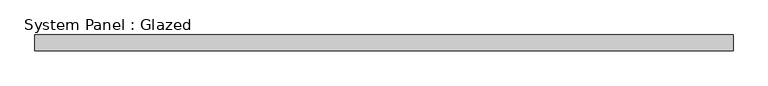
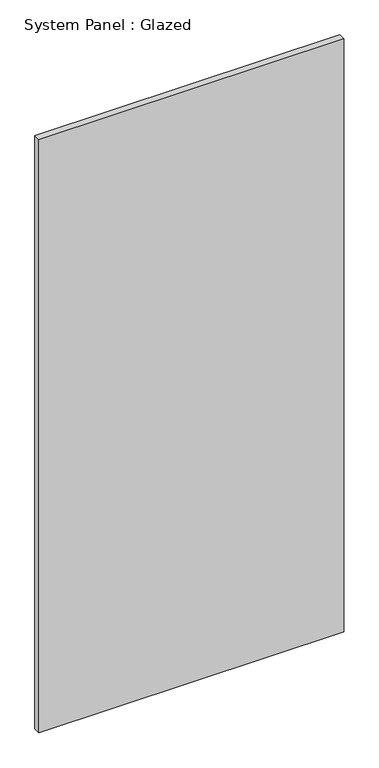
"""IFC4 building model written with IfcOpenShell, lengths in millimetres: plate geometry, System Panel : Glazed."""

import ifcopenshell
import ifcopenshell.guid

model = None  # the IFC model being written
_history = None  # IfcOwnerHistory: only IFC2X3 demands one
_inside = {}  # id of a spatial element -> (the spatial element, [elements in it])
_under = {}  # id of a project, library or spatial element -> (it, [spatial elements below it])
_declared = {}  # id of a project -> (the project, [libraries it declares])
_typed = {}  # id of a type object -> (the type object, [elements of that type])
_made_of = {}  # id of a material, layer set ... -> (it, [elements and type objects made of it])


def new_model(schema):
    """Start an empty IFC model of exactly this schema.

    Asked for "IFC4X3", IfcOpenShell would pick the latest addendum, in which some entities
    have other attributes; the version numbers below select the first issue.
    IFC2X3 requires an IfcOwnerHistory on every rooted entity: one is made here for all.
    """
    global model, _history
    if schema == "IFC4X3":
        model = ifcopenshell.file(schema_version=(4, 3, 0, 0))
    else:
        model = ifcopenshell.file(schema=schema)
    _inside.clear()
    _under.clear()
    _declared.clear()
    _typed.clear()
    _made_of.clear()
    _history = None
    if model.schema == "IFC2X3":
        org = make("IfcOrganization", Name="unknown")
        user = make(
            "IfcPersonAndOrganization",
            ThePerson=make("IfcPerson", FamilyName="unknown"),
            TheOrganization=org,
        )
        app = make(
            "IfcApplication",
            ApplicationDeveloper=org,
            Version="unknown",
            ApplicationFullName="unknown",
            ApplicationIdentifier="unknown",
        )
        _history = make(
            "IfcOwnerHistory",
            OwningUser=user,
            OwningApplication=app,
            ChangeAction="ADDED",
            CreationDate=0,
        )
    return model


def make(cls, **values):
    """One entity of the class cls with the attributes given. An attribute that is None is left unset."""
    return model.create_entity(
        cls, **{name: value for name, value in values.items() if value is not None}
    )


def rooted(cls, **values):
    """An entity with a GlobalId (a new one), such as an element, a storey or a relation."""
    return make(cls, GlobalId=ifcopenshell.guid.new(), OwnerHistory=_history, **values)


def si_unit(unit_type, name, prefix=None):
    """IfcSIUnit, for example si_unit("LENGTHUNIT", "METRE", prefix="MILLI")."""
    return make("IfcSIUnit", UnitType=unit_type, Prefix=prefix, Name=name)


def assignment(units):
    """IfcUnitAssignment: the units of a project."""
    return None if units is None else make("IfcUnitAssignment", Units=units)


def point(xyz):
    """IfcCartesianPoint."""
    return None if xyz is None else make("IfcCartesianPoint", Coordinates=xyz)


def direction(xyz):
    """IfcDirection."""
    return None if xyz is None else make("IfcDirection", DirectionRatios=xyz)


def frame(location, z_axis=None, x_axis=None):
    """IfcAxis2Placement3D, a coordinate frame: its origin and axes. An axis left out is left unset."""
    return make(
        "IfcAxis2Placement3D",
        Location=point(location),
        Axis=direction(z_axis),
        RefDirection=direction(x_axis),
    )


def origin():
    """The frame at (0, 0, 0) with its axes left unset."""
    return frame((0.0, 0.0, 0.0))


def origin_with_axes():
    """The frame at (0, 0, 0) with the z axis (0, 0, 1) and the x axis (1, 0, 0) written out."""
    return frame((0.0, 0.0, 0.0), z_axis=(0.0, 0.0, 1.0), x_axis=(1.0, 0.0, 0.0))


def place(relative_to, where):
    """IfcLocalPlacement: puts the frame where relative to a parent placement (None: the world)."""
    return make(
        "IfcLocalPlacement", PlacementRelTo=relative_to, RelativePlacement=where
    )


def context(
    kind, dimensions, precision=None, world=None, true_north=None, identifier=None
):
    """IfcGeometricRepresentationContext, for example the 3D "Model" context."""
    return make(
        "IfcGeometricRepresentationContext",
        ContextIdentifier=identifier,
        ContextType=kind,
        CoordinateSpaceDimension=dimensions,
        Precision=precision,
        WorldCoordinateSystem=world,
        TrueNorth=true_north,
    )


def project(units=None, contexts=None):
    """IfcProject with its units and contexts."""
    return rooted(
        "IfcProject",
        Name="project",
        RepresentationContexts=contexts,
        UnitsInContext=assignment(units),
    )


def spatial(cls, under=None, at=None, **own):
    """A site, building, storey or space (cls), placed at a placement, below another one or the project."""
    s = rooted(cls, ObjectPlacement=at, **own)
    if under is not None:
        _under.setdefault(under.id(), (under, []))[1].append(s)
    return s


def polyline(points):
    """IfcPolyline through the points."""
    return make("IfcPolyline", Points=[point(p) for p in points])


def outline(outer, holes=None, kind="AREA"):
    """IfcArbitraryClosedProfileDef: a profile drawn as a closed curve; with holes, ...WithVoids."""
    if holes is None:
        return make("IfcArbitraryClosedProfileDef", ProfileType=kind, OuterCurve=outer)
    return make(
        "IfcArbitraryProfileDefWithVoids",
        ProfileType=kind,
        OuterCurve=outer,
        InnerCurves=holes,
    )


def extrude(swept, where, along, depth):
    """IfcExtrudedAreaSolid: the profile swept, set in the frame where, extruded along a direction by depth."""
    return make(
        "IfcExtrudedAreaSolid",
        SweptArea=swept,
        Position=where,
        ExtrudedDirection=direction(along),
        Depth=depth,
    )


def shape(context_of_items, identifier, shape_type, items):
    """IfcShapeRepresentation: the items that make up one representation, for example the "Body"."""
    return make(
        "IfcShapeRepresentation",
        ContextOfItems=context_of_items,
        RepresentationIdentifier=identifier,
        RepresentationType=shape_type,
        Items=items,
    )


def source(mapping_origin, context_of_items, identifier, shape_type, items):
    """IfcRepresentationMap: a shape defined once, which mapped items show again and again."""
    return make(
        "IfcRepresentationMap",
        MappingOrigin=mapping_origin,
        MappedRepresentation=shape(context_of_items, identifier, shape_type, items),
    )


def transform(
    local_origin,
    x_axis=None,
    y_axis=None,
    z_axis=None,
    scale=None,
    scale2=None,
    scale3=None,
    uniform=True,
):
    """IfcCartesianTransformationOperator3D, or its non-uniform kind. x_axis, y_axis, z_axis: its Axis1, 2, 3."""
    if uniform:
        return make(
            "IfcCartesianTransformationOperator3D",
            Axis1=direction(x_axis),
            Axis2=direction(y_axis),
            LocalOrigin=point(local_origin),
            Scale=scale,
            Axis3=direction(z_axis),
        )
    return make(
        "IfcCartesianTransformationOperator3DnonUniform",
        Axis1=direction(x_axis),
        Axis2=direction(y_axis),
        LocalOrigin=point(local_origin),
        Scale=scale,
        Axis3=direction(z_axis),
        Scale2=scale2,
        Scale3=scale3,
    )


def mapped(mapping_source, mapping_target):
    """IfcMappedItem: shows the shape of a source again, moved by a transform."""
    return make(
        "IfcMappedItem", MappingSource=mapping_source, MappingTarget=mapping_target
    )


def made_of(thing, what):
    """Note that an element or type object is made of a material, layer set ...; save() writes the relation."""
    if what is not None:
        _made_of.setdefault(what.id(), (what, []))[1].append(thing)
    return thing


def element(
    cls,
    number,
    at=None,
    inside=None,
    cuts=None,
    type_object=None,
    material=None,
    context=None,
    identifier="Body",
    shape_type=None,
    held_by="IfcProductDefinitionShape",
    body=None,
    shapes=None,
    **own,
):
    """One element of the class cls, such as IfcWall. Its Tag is "e" and its number.

    at: its placement. inside: the storey or other place that contains it. cuts: it is an
    opening in that element (IfcRelVoidsElement). A single representation is given by context,
    identifier, shape_type and body (its items); several are given by shapes. held_by: the class
    of the entity that holds the representations. save() writes the other relations.
    """
    e = rooted(cls, Tag="e%d" % number, ObjectPlacement=at, **own)
    if body is not None:
        shapes = [shape(context, identifier, shape_type, body)]
    if shapes is not None:
        e.Representation = make(held_by, Representations=shapes)
    if inside is not None:
        _inside.setdefault(inside.id(), (inside, []))[1].append(e)
    if cuts is not None:
        rooted(
            "IfcRelVoidsElement", RelatingBuildingElement=cuts, RelatedOpeningElement=e
        )
    if type_object is not None:
        _typed.setdefault(type_object.id(), (type_object, []))[1].append(e)
    return made_of(e, material)


def aggregate(whole, parts):
    """IfcRelAggregates: a whole, such as a stair, and the parts it consists of."""
    return rooted("IfcRelAggregates", RelatingObject=whole, RelatedObjects=parts)


def save(model, path):
    """Write the relations noted so far, then the file.

    IfcRelAggregates (storeys below a building ...), IfcRelContainedInSpatialStructure (elements
    in a storey), IfcRelDefinesByType, IfcRelAssociatesMaterial and IfcRelDeclares: one each for
    every whole, place, type object, material and project.
    """
    for whole, parts in _under.values():
        aggregate(whole, parts)
    for where, things in _inside.values():
        rooted(
            "IfcRelContainedInSpatialStructure",
            RelatedElements=things,
            RelatingStructure=where,
        )
    for kind, things in _typed.values():
        rooted("IfcRelDefinesByType", RelatedObjects=things, RelatingType=kind)
    for what, things in _made_of.values():
        rooted("IfcRelAssociatesMaterial", RelatedObjects=things, RelatingMaterial=what)
    for by, libraries in _declared.values():
        rooted("IfcRelDeclares", RelatingContext=by, RelatedDefinitions=libraries)
    model.write(path)


def system_panel_glazed_1974f2ce(model_context):
    return source(origin(), model_context, "Body", "SweptSolid", [
        extrude(outline(polyline([(561.975, 19.05), (-561.975, 19.05), (-561.975, 44.45), (561.975, 44.45), (561.975, 19.05)])), origin_with_axes(), (0.0, 0.0, 1.0), 2311.4),
    ])


if __name__ == "__main__":
    model = new_model("IFC4")
    model_context = context("Model", 3, world=origin())
    ifc_project = project(units=[si_unit("LENGTHUNIT", "METRE", prefix="MILLI")], contexts=[model_context])
    site = spatial("IfcSite", under=ifc_project)
    building = spatial("IfcBuilding", under=site)
    placement = place(None, origin())
    system_panel_glazed_shape = system_panel_glazed_1974f2ce(model_context)
    element("IfcPlate", 1, ObjectType="System Panel : Glazed", at=placement, inside=building, context=model_context, shape_type="MappedRepresentation", body=[
        mapped(system_panel_glazed_shape, transform((0.0, 0.0, 0.0), x_axis=(1.0, 0.0, 0.0), y_axis=(0.0, 1.0, 0.0), z_axis=(0.0, 0.0, 1.0))),
    ])
    save(model, "model.ifc")
